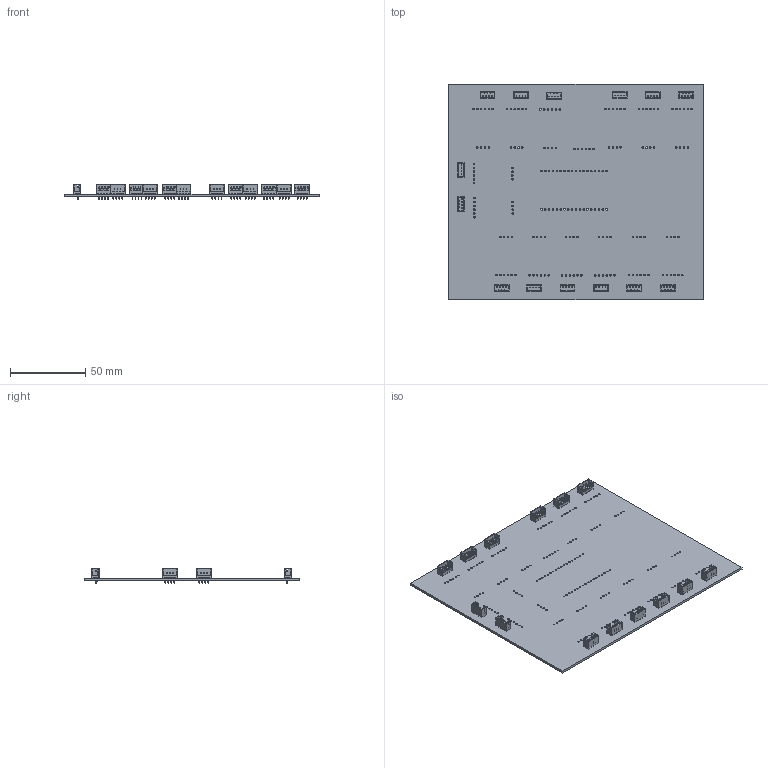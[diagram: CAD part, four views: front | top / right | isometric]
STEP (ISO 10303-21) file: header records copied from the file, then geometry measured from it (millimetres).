
FILE_DESCRIPTION(('KiCad electronic assembly'),'2;1');
FILE_NAME('20231019-SMARTCAGE-PremierPCB.step','2023-11-29T11:32:17',( 'Pcbnew'),('Kicad'),'Open CASCADE STEP processor 7.7', 'KiCad to STEP converter','Unknown');
FILE_SCHEMA(('AUTOMOTIVE_DESIGN { 1 0 10303 214 1 1 1 1 }'));
Length unit declared in the file: millimetre
Products named in the file (4): 20231019-SMARTCAGE-PremierPCB 1; JST_PH_B4B-PH-K_1x04_P2.00mm_Vertical; SOLID; 20231019-SMARTCAGE-PremierPCB PCB
Assembly tree (16 placements, depth 3):
  20231019-SMARTCAGE-PremierPCB 1
    JST_PH_B4B-PH-K_1x04_P2.00mm_Vertical  x14
      SOLID
    20231019-SMARTCAGE-PremierPCB PCB
Bounding box: 168.91 x 143 x 9.4 mm (x, y, z)
Volume: 40177.8 mm3; surface area: 55507.3 mm2
Topology: 15 solids, 15 shells, 2330 faces, 6270 edges, 4068 vertices
Faces by surface type: plane 2064, cylinder 266
Full cylindrical faces by diameter (mm): 0.75 x56, 1 x182
Entity records: 31192 total; most frequent: CARTESIAN_POINT 7378, DIRECTION 4189, LINE 2406, VECTOR 2406, ORIENTED_EDGE 2244, PCURVE 2244, DEFINITIONAL_REPRESENTATION 2244, EDGE_CURVE 1122
